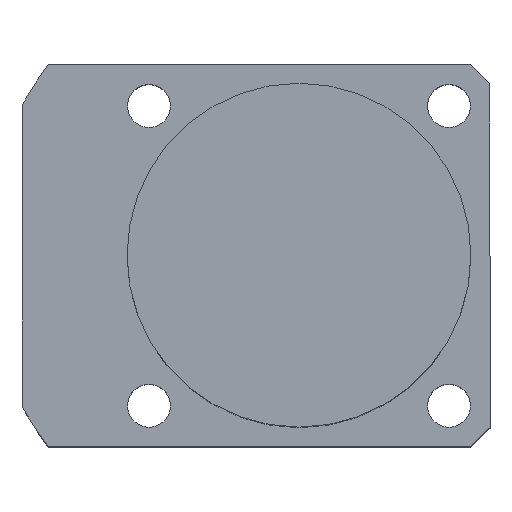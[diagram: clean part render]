
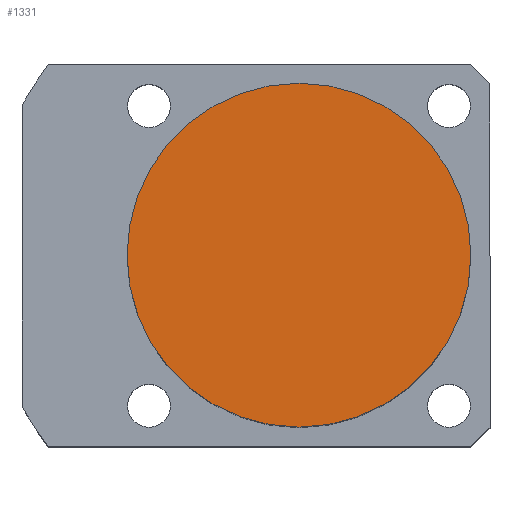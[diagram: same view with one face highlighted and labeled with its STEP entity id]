
A CAD part, top view. The second image highlights one B-rep face of the part: STEP entity #1331.
In plain terms, the highlighted planar face has unit normal (0, 0, 1).
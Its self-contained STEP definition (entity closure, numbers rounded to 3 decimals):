
#9 = FACE_OUTER_BOUND ( 'NONE', #725, .T. ) ;
#53 = AXIS2_PLACEMENT_3D ( 'NONE', #70, #518, #1098 ) ;
#70 = CARTESIAN_POINT ( 'NONE',  ( 0., 0., 48.5 ) ) ;
#89 = PLANE ( 'NONE',  #53 ) ;
#274 = CARTESIAN_POINT ( 'NONE',  ( 18., 0., 48.5 ) ) ;
#276 = DIRECTION ( 'NONE',  ( 1., 0., 0. ) ) ;
#371 = EDGE_CURVE ( 'NONE', #433, #1808, #1099, .T. ) ;
#433 = VERTEX_POINT ( 'NONE', #274 ) ;
#435 = CARTESIAN_POINT ( 'NONE',  ( 0., 0., 48.5 ) ) ;
#518 = DIRECTION ( 'NONE',  ( 0., 0., 1. ) ) ;
#663 = DIRECTION ( 'NONE',  ( 0., 0., 1. ) ) ;
#725 = EDGE_LOOP ( 'NONE', ( #1533, #1191 ) ) ;
#832 = CARTESIAN_POINT ( 'NONE',  ( 0., 0., 48.5 ) ) ;
#940 = AXIS2_PLACEMENT_3D ( 'NONE', #832, #663, #1269 ) ;
#947 = CARTESIAN_POINT ( 'NONE',  ( -18., 0., 48.5 ) ) ;
#1098 = DIRECTION ( 'NONE',  ( 1., 0., 0. ) ) ;
#1099 = CIRCLE ( 'NONE', #940, 18. ) ;
#1191 = ORIENTED_EDGE ( 'NONE', *, *, #371, .T. ) ;
#1269 = DIRECTION ( 'NONE',  ( 1., 0., 0. ) ) ;
#1328 = DIRECTION ( 'NONE',  ( 0., 0., 1. ) ) ;
#1331 = ADVANCED_FACE ( 'NONE', ( #9 ), #89, .T. ) ;
#1347 = CIRCLE ( 'NONE', #1483, 18. ) ;
#1483 = AXIS2_PLACEMENT_3D ( 'NONE', #435, #1328, #276 ) ;
#1533 = ORIENTED_EDGE ( 'NONE', *, *, #1610, .T. ) ;
#1610 = EDGE_CURVE ( 'NONE', #1808, #433, #1347, .T. ) ;
#1808 = VERTEX_POINT ( 'NONE', #947 ) ;
